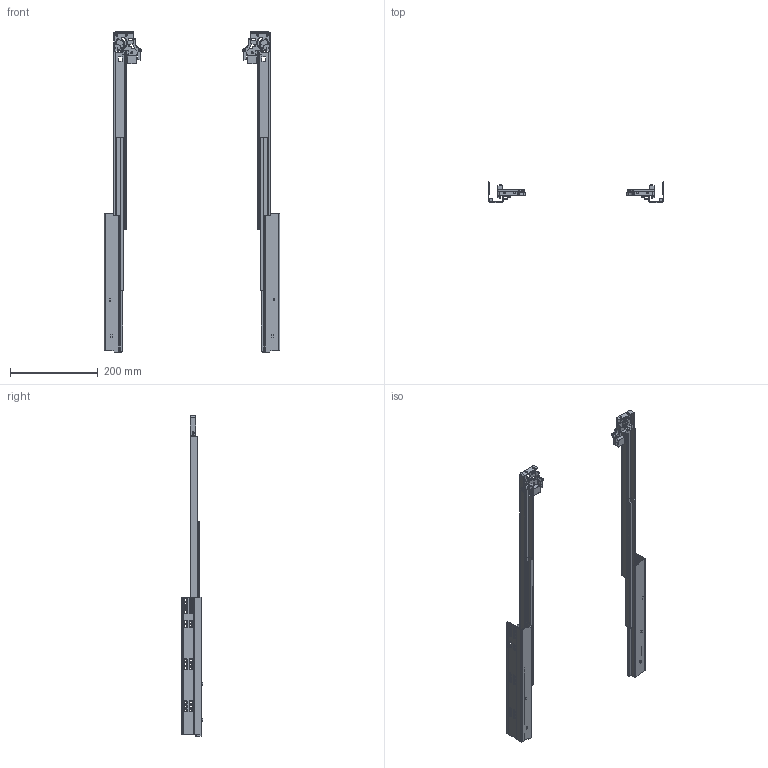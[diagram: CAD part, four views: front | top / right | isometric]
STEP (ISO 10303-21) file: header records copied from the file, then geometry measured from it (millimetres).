
FILE_DESCRIPTION(/* description */ (''),/* implementation_level */ '2;1');
FILE_NAME(/* name */ 'D:\$Workingspace\Designs\Katalog\Cadsoft\GTV Prowadnice\Prowadnice GTV_bryły 3D\PB-0FPO-450_wysunieta.stp',/* time_stamp */ '2016-11-21T14:05:40+01:00',/* author */ ('tomaszw'),/* organization */ (''),/* preprocessor_version */ 'ST-DEVELOPER v16.1',/* originating_system */ 'Autodesk Inventor 2016',/* authorisation */ '');
FILE_SCHEMA (('AUTOMOTIVE_DESIGN { 1 0 10303 214 3 1 1 }'));
Length unit declared in the file: millimetre
Products named in the file (9): PB-0FPO-CL-450; PB-0FPO-CR-450; PB-0FPO-DL-450; PB-0FPO-DR-450; PB-0FPO-DWL-450; PB-0FPO-DWR-450; PB-0FPO-SL; PB-0FPO-SR; PB-0FPO
Assembly tree (8 placements, depth 2):
  PB-0FPO
    PB-0FPO-CL-450
    PB-0FPO-CR-450
    PB-0FPO-DL-450
    PB-0FPO-DR-450
    PB-0FPO-DWL-450
    PB-0FPO-DWR-450
    PB-0FPO-SL
    PB-0FPO-SR
Bounding box: 400 x 48.8 x 730 mm (x, y, z)
Volume: 283894.7 mm3; surface area: 347085.9 mm2
Topology: 16 solids, 16 shells, 1884 faces, 4356 edges, 2510 vertices
Faces by surface type: cylinder 792, plane 444, torus 366, sphere 198, cone 48, bspline 36
Full cylindrical faces by diameter (mm): 3 x2, 4 x6, 4.5 x6, 5 x2, 6 x48, 7.889 x2
Entity records: 56377 total; most frequent: CARTESIAN_POINT 11155, DIRECTION 9982, ORIENTED_EDGE 8308, EDGE_CURVE 4154, AXIS2_PLACEMENT_3D 4031, VERTEX_POINT 2456, EDGE_LOOP 2182, CIRCLE 2154
